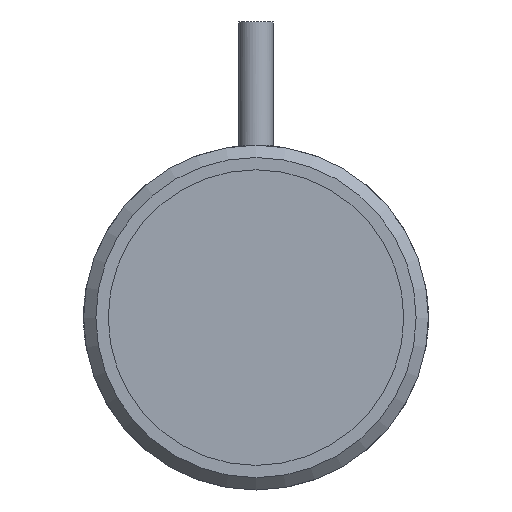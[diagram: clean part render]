
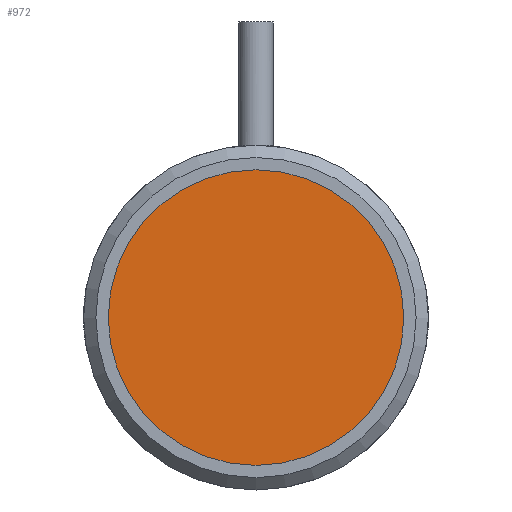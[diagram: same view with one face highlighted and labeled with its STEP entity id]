
A CAD part, left-side view. The second image highlights one B-rep face of the part: STEP entity #972.
In plain terms, the highlighted planar face has unit normal (-1, 0, 0).
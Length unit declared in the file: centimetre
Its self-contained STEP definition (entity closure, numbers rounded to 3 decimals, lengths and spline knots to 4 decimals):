
#238=PLANE('',#1037);
#308=VERTEX_POINT('',#1531);
#386=CIRCLE('',#1035,0.6);
#446=EDGE_CURVE('',#308,#308,#386,.T.);
#609=ORIENTED_EDGE('',*,*,#446,.T.);
#850=EDGE_LOOP('',(#609));
#914=FACE_BOUND('',#850,.T.);
#972=ADVANCED_FACE('',(#914),#238,.T.);
#1035=AXIS2_PLACEMENT_3D('',#1530,#1142,#1143);
#1037=AXIS2_PLACEMENT_3D('',#1534,#1146,$);
#1142=DIRECTION('',(-1.,0.,0.));
#1143=DIRECTION('',(0.,0.,0.6));
#1146=DIRECTION('',(-1.,0.,0.));
#1530=CARTESIAN_POINT('',(0.1,0.,0.));
#1531=CARTESIAN_POINT('',(0.1,0.,0.6));
#1534=CARTESIAN_POINT('',(0.1,0.,0.));
